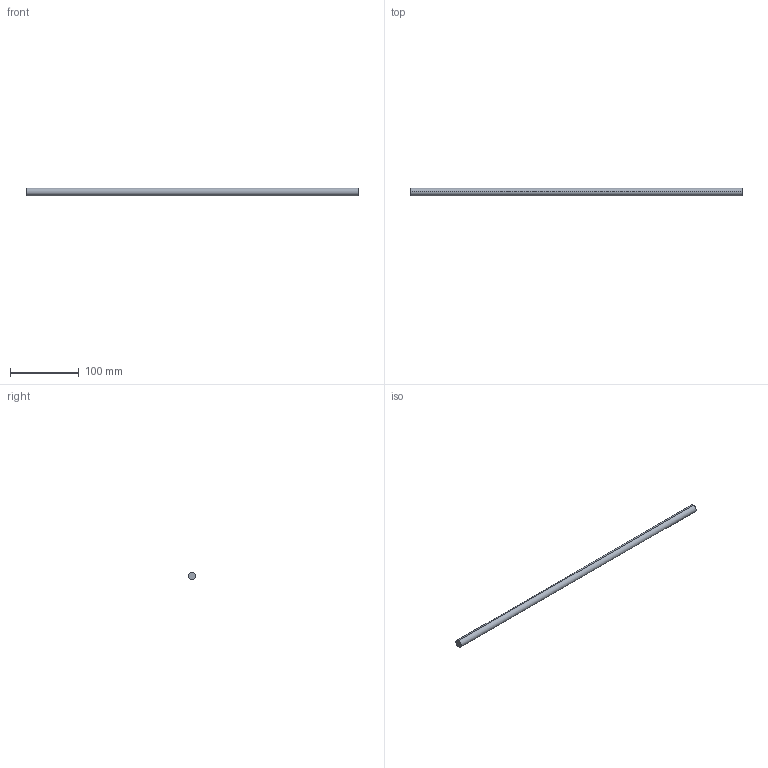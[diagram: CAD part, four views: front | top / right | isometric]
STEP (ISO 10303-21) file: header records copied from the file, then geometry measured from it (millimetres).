
FILE_DESCRIPTION (( 'STEP AP214' ), '1' );
FILE_NAME ('Querreling_Frontblende_Innenlade_KS-19_25mm-Halter_KAB-600.step', '2010-09-22T15:05:46', ( 'grass' ), ( '' ), 'SwSTEP 2.0', 'SolidWorks 2010', '' );
FILE_SCHEMA (( 'AUTOMOTIVE_DESIGN' ));
Length unit declared in the file: millimetre
Products named in the file (1): Querreling_Frontblende_Innenlade_KS-19_25mm-Halter_KAB-600
Bounding box: 484 x 11 x 11 mm (x, y, z)
Volume: 45996.1 mm3; surface area: 16915.9 mm2
Topology: 1 solids, 1 shells, 4 faces, 6 edges, 4 vertices
Faces by surface type: cylinder 2, plane 2
Entity records: 128 total; most frequent: DIRECTION 20, CARTESIAN_POINT 15, ORIENTED_EDGE 12, AXIS2_PLACEMENT_3D 9, EDGE_CURVE 6, VERTEX_POINT 4, EDGE_LOOP 4, FACE_OUTER_BOUND 4
